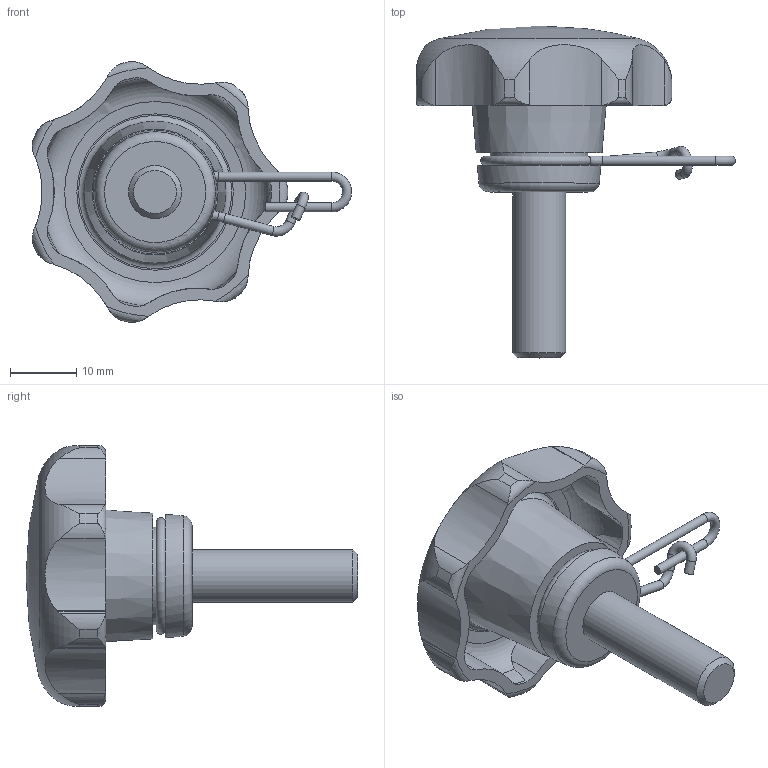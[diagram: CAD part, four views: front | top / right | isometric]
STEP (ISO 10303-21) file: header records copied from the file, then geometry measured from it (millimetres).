
FILE_DESCRIPTION( ( 'STEP AP203' ), '1' );
FILE_NAME( 'C:/Temp/Ganter_Step_05_03_2020/data/2_2/gn_6336_13/gn_6336_13_2/Star knob GN 6336.13-40-M8-25-A.stp', '2020-03-05T12:11:10', ( 'License CC BY-ND 4.0' ), ( 'CADENAS' ), ' ', 'PARTsolutions', ' ' );
FILE_SCHEMA( ( 'CONFIG_CONTROL_DESIGN' ) );
Length unit declared in the file: millimetre
Products named in the file (1): _Star knob GN 6336.13-40-M8-25-A
Bounding box: 48.07 x 50 x 39.31 mm (x, y, z)
Volume: 12489.7 mm3; surface area: 6185.7 mm2
Topology: 1 solids, 1 shells, 114 faces, 310 edges, 202 vertices
Faces by surface type: cylinder 73, torus 18, cone 11, plane 11, sphere 1
Full cylindrical faces by diameter (mm): 1.4 x5, 8 x1, 14.7 x1
Entity records: 4226 total; most frequent: CARTESIAN_POINT 1527, ORIENTED_EDGE 564, DIRECTION 516, EDGE_CURVE 282, AXIS2_PLACEMENT_3D 222, VERTEX_POINT 199, EDGE_LOOP 140, FACE_OUTER_BOUND 131
